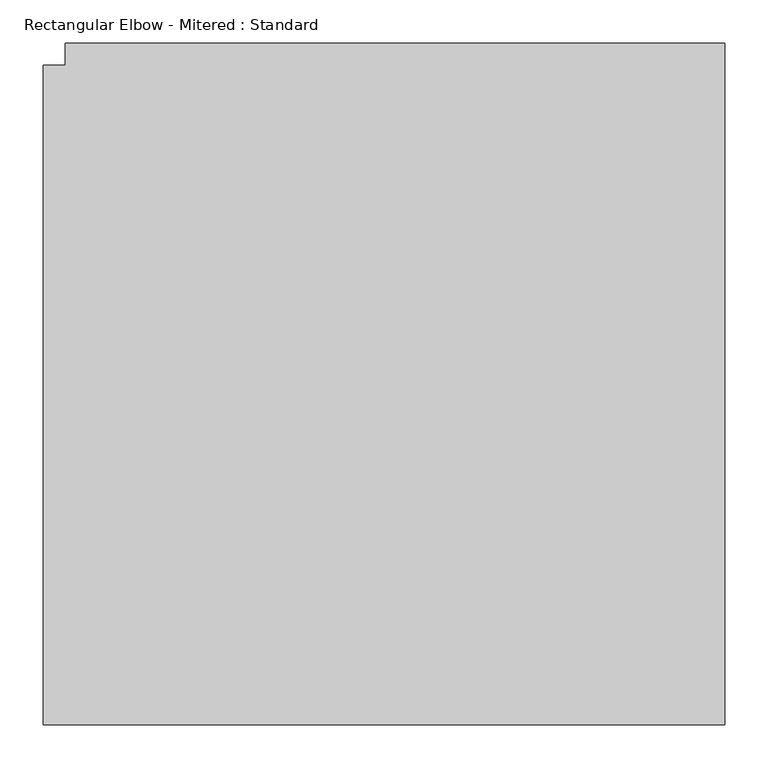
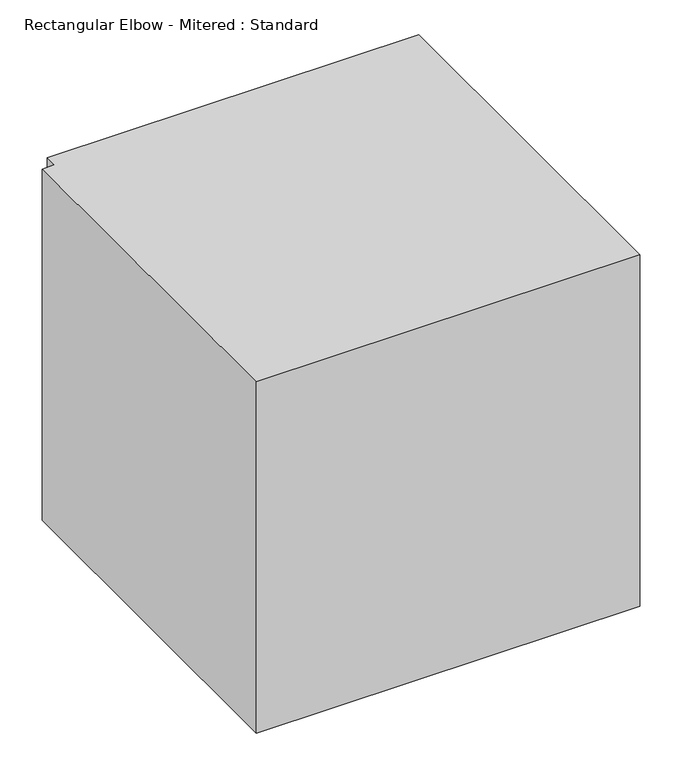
"""IFC4 building model written with IfcOpenShell, lengths in millimetres: duct fitting geometry, Rectangular Elbow - Mitered : Standard."""

from ifc_helpers import new_model, si_unit, frame, origin, place, context, project, spatial, polyline, outline, extrude, source, transform, mapped, element, save


def rectangular_elbow_mitered_standard_6dab44a9(model_context):
    return source(origin(), model_context, "Body", "SweptSolid", [
        extrude(outline(polyline([(-406.4, -381.0), (-406.4, 381.0), (-381.0, 381.0), (-381.0, 406.4), (381.0, 406.4), (381.0, -381.0), (-406.4, -381.0)])), frame((0.0, 0.0, -381.0), z_axis=(0.0, 0.0, 1.0), x_axis=(1.0, 0.0, 0.0)), (0.0, 0.0, 1.0), 762.0),
    ])


if __name__ == "__main__":
    model = new_model("IFC4")
    model_context = context("Model", 3, world=origin())
    ifc_project = project(units=[si_unit("LENGTHUNIT", "METRE", prefix="MILLI")], contexts=[model_context])
    site = spatial("IfcSite", under=ifc_project)
    building = spatial("IfcBuilding", under=site)
    placement = place(None, origin())
    rectangular_elbow_mitered_standard_shape = rectangular_elbow_mitered_standard_6dab44a9(model_context)
    element("IfcDuctFitting", 1, ObjectType="Rectangular Elbow - Mitered : Standard", at=placement, inside=building, context=model_context, shape_type="MappedRepresentation", body=[
        mapped(rectangular_elbow_mitered_standard_shape, transform((0.0, 0.0, 0.0), x_axis=(1.0, 0.0, 0.0), y_axis=(0.0, 1.0, 0.0), z_axis=(0.0, 0.0, 1.0))),
    ])
    save(model, "model.ifc")
